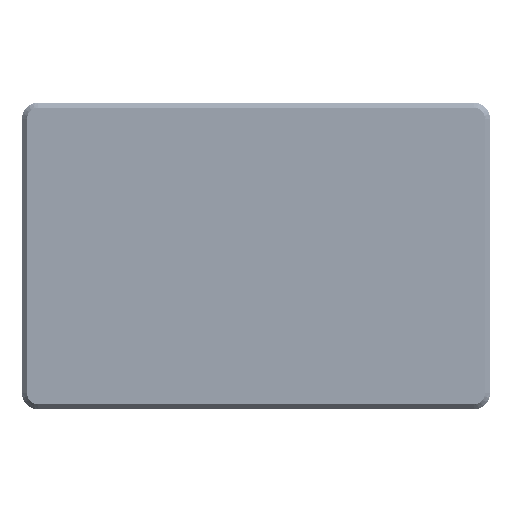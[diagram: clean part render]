
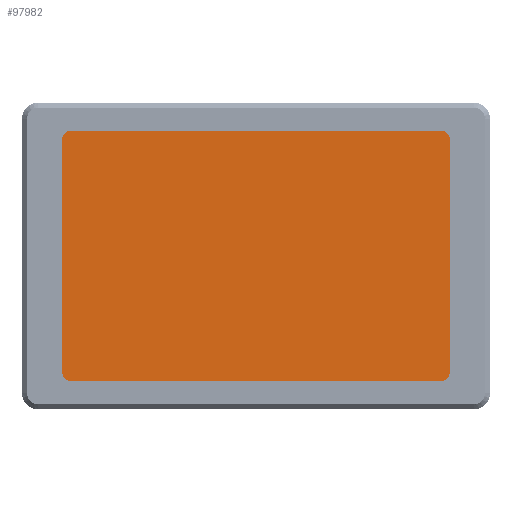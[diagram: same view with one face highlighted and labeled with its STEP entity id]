
A CAD part, top view. The second image highlights one B-rep face of the part: STEP entity #97982.
In plain terms, the highlighted planar face has unit normal (0, 0, 1).
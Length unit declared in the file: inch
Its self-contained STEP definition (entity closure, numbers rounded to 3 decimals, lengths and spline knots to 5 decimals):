
#1271 = VERTEX_POINT ( 'NONE', #100999 ) ;
#5491 = CARTESIAN_POINT ( 'NONE',  ( -2.875, -1.8125, 0.3378 ) ) ;
#5605 = VECTOR ( 'NONE', #155958, 39.37008 ) ;
#7570 = AXIS2_PLACEMENT_3D ( 'NONE', #139883, #98704, #152179 ) ;
#9618 = ORIENTED_EDGE ( 'NONE', *, *, #68076, .T. ) ;
#10042 = VERTEX_POINT ( 'NONE', #141018 ) ;
#10250 = EDGE_CURVE ( 'NONE', #10042, #27616, #165454, .T. ) ;
#12574 = FACE_OUTER_BOUND ( 'NONE', #18094, .T. ) ;
#15056 = ORIENTED_EDGE ( 'NONE', *, *, #70904, .T. ) ;
#18094 = EDGE_LOOP ( 'NONE', ( #43862, #15056, #101225, #36082, #22682, #108879, #9618, #115706 ) ) ;
#18855 = CARTESIAN_POINT ( 'NONE',  ( 3., -1.8125, 0.3378 ) ) ;
#21345 = CIRCLE ( 'NONE', #130328, 0.125 ) ;
#21737 = DIRECTION ( 'NONE',  ( 0., -1., 0. ) ) ;
#22682 = ORIENTED_EDGE ( 'NONE', *, *, #77752, .T. ) ;
#27616 = VERTEX_POINT ( 'NONE', #161603 ) ;
#29143 = CIRCLE ( 'NONE', #73783, 0.125 ) ;
#31981 = DIRECTION ( 'NONE',  ( 0., 1., 0. ) ) ;
#33153 = CARTESIAN_POINT ( 'NONE',  ( 2.875, -1.9375, 0.3378 ) ) ;
#35089 = CARTESIAN_POINT ( 'NONE',  ( 3., 1.8125, 0.3378 ) ) ;
#36082 = ORIENTED_EDGE ( 'NONE', *, *, #50104, .T. ) ;
#37818 = CARTESIAN_POINT ( 'NONE',  ( 2.875, 1.8125, 0.3378 ) ) ;
#43862 = ORIENTED_EDGE ( 'NONE', *, *, #150532, .T. ) ;
#46950 = DIRECTION ( 'NONE',  ( 0., 0., 1. ) ) ;
#48238 = EDGE_CURVE ( 'NONE', #69593, #1271, #88388, .T. ) ;
#50104 = EDGE_CURVE ( 'NONE', #129014, #108840, #151937, .T. ) ;
#50125 = CIRCLE ( 'NONE', #100386, 0.125 ) ;
#56493 = CARTESIAN_POINT ( 'NONE',  ( 3., -1.8125, 0.3378 ) ) ;
#57113 = CARTESIAN_POINT ( 'NONE',  ( 2.875, 1.9375, 0.3378 ) ) ;
#63024 = VERTEX_POINT ( 'NONE', #156098 ) ;
#68076 = EDGE_CURVE ( 'NONE', #1271, #10042, #29143, .T. ) ;
#69593 = VERTEX_POINT ( 'NONE', #57113 ) ;
#70904 = EDGE_CURVE ( 'NONE', #63024, #136319, #72416, .T. ) ;
#72416 = LINE ( 'NONE', #33153, #91612 ) ;
#73783 = AXIS2_PLACEMENT_3D ( 'NONE', #168923, #145135, #21737 ) ;
#74875 = CARTESIAN_POINT ( 'NONE',  ( -2.875, -1.8125, 0.3378 ) ) ;
#77752 = EDGE_CURVE ( 'NONE', #108840, #69593, #50125, .T. ) ;
#77978 = DIRECTION ( 'NONE',  ( 0., 1., 0. ) ) ;
#84680 = DIRECTION ( 'NONE',  ( 0., -1., 0. ) ) ;
#87304 = DIRECTION ( 'NONE',  ( 1., 0., 0. ) ) ;
#88388 = LINE ( 'NONE', #131382, #5605 ) ;
#91139 = DIRECTION ( 'NONE',  ( 0., 0., 1. ) ) ;
#91612 = VECTOR ( 'NONE', #87304, 39.37008 ) ;
#92466 = CARTESIAN_POINT ( 'NONE',  ( 2.875, -1.9375, 0.3378 ) ) ;
#97982 = ADVANCED_FACE ( 'NONE', ( #12574 ), #160549, .F. ) ;
#98704 = DIRECTION ( 'NONE',  ( 0., 0., 1. ) ) ;
#100386 = AXIS2_PLACEMENT_3D ( 'NONE', #37818, #91139, #77978 ) ;
#100999 = CARTESIAN_POINT ( 'NONE',  ( -2.875, 1.9375, 0.3378 ) ) ;
#101225 = ORIENTED_EDGE ( 'NONE', *, *, #173069, .T. ) ;
#104218 = AXIS2_PLACEMENT_3D ( 'NONE', #5491, #163989, #112217 ) ;
#108840 = VERTEX_POINT ( 'NONE', #35089 ) ;
#108879 = ORIENTED_EDGE ( 'NONE', *, *, #48238, .T. ) ;
#112217 = DIRECTION ( 'NONE',  ( 0., 1., 0. ) ) ;
#113730 = CIRCLE ( 'NONE', #7570, 0.125 ) ;
#115706 = ORIENTED_EDGE ( 'NONE', *, *, #10250, .T. ) ;
#127569 = DIRECTION ( 'NONE',  ( 0., 1., 0. ) ) ;
#129014 = VERTEX_POINT ( 'NONE', #56493 ) ;
#130328 = AXIS2_PLACEMENT_3D ( 'NONE', #74875, #46950, #127569 ) ;
#131382 = CARTESIAN_POINT ( 'NONE',  ( 2.875, 1.9375, 0.3378 ) ) ;
#136319 = VERTEX_POINT ( 'NONE', #92466 ) ;
#139883 = CARTESIAN_POINT ( 'NONE',  ( 2.875, -1.8125, 0.3378 ) ) ;
#141018 = CARTESIAN_POINT ( 'NONE',  ( -3., 1.8125, 0.3378 ) ) ;
#145135 = DIRECTION ( 'NONE',  ( 0., 0., 1. ) ) ;
#150532 = EDGE_CURVE ( 'NONE', #27616, #63024, #21345, .T. ) ;
#151937 = LINE ( 'NONE', #18855, #165082 ) ;
#152179 = DIRECTION ( 'NONE',  ( 0., 1., 0. ) ) ;
#155958 = DIRECTION ( 'NONE',  ( -1., 0., 0. ) ) ;
#156098 = CARTESIAN_POINT ( 'NONE',  ( -2.875, -1.9375, 0.3378 ) ) ;
#157011 = VECTOR ( 'NONE', #84680, 39.37008 ) ;
#160549 = PLANE ( 'NONE',  #104218 ) ;
#161603 = CARTESIAN_POINT ( 'NONE',  ( -3., -1.8125, 0.3378 ) ) ;
#163989 = DIRECTION ( 'NONE',  ( 0., 0., -1. ) ) ;
#165082 = VECTOR ( 'NONE', #31981, 39.37008 ) ;
#165454 = LINE ( 'NONE', #166328, #157011 ) ;
#166328 = CARTESIAN_POINT ( 'NONE',  ( -3., -1.8125, 0.3378 ) ) ;
#168923 = CARTESIAN_POINT ( 'NONE',  ( -2.875, 1.8125, 0.3378 ) ) ;
#173069 = EDGE_CURVE ( 'NONE', #136319, #129014, #113730, .T. ) ;
